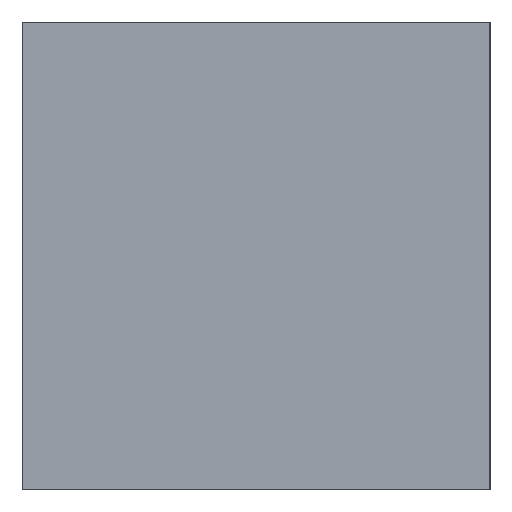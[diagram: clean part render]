
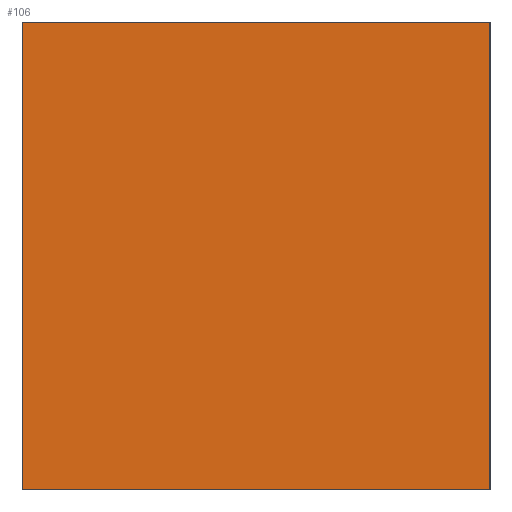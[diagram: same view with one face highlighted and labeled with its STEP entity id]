
A CAD part, left-side view. The second image highlights one B-rep face of the part: STEP entity #106.
In plain terms, the highlighted planar face has unit normal (-1, 0, 0).
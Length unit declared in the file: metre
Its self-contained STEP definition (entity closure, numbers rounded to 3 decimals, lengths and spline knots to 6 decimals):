
#20=ORIENTED_EDGE('',*,*,#37,.T.);
#21=ORIENTED_EDGE('',*,*,#44,.F.);
#22=ORIENTED_EDGE('',*,*,#43,.F.);
#23=ORIENTED_EDGE('',*,*,#45,.T.);
#37=EDGE_CURVE('',#50,#48,#57,.T.);
#43=EDGE_CURVE('',#55,#52,#63,.T.);
#44=EDGE_CURVE('',#52,#48,#64,.T.);
#45=EDGE_CURVE('',#55,#50,#65,.T.);
#48=VERTEX_POINT('',#195);
#50=VERTEX_POINT('',#198);
#52=VERTEX_POINT('',#204);
#55=VERTEX_POINT('',#209);
#57=LINE('',#197,#69);
#63=LINE('',#210,#75);
#64=LINE('',#212,#76);
#65=LINE('',#213,#77);
#69=VECTOR('',#171,1.);
#75=VECTOR('',#179,1.);
#76=VECTOR('',#182,1.);
#77=VECTOR('',#183,1.);
#82=EDGE_LOOP('',(#20,#21,#22,#23));
#88=FACE_BOUND('',#82,.T.);
#94=PLANE('',#162);
#106=ADVANCED_FACE('',(#88),#94,.F.);
#162=AXIS2_PLACEMENT_3D('',#211,#180,#181);
#171=DIRECTION('',(0.,-1.,0.));
#179=DIRECTION('',(0.,-1.,0.));
#180=DIRECTION('',(1.,0.,0.));
#181=DIRECTION('',(0.,1.,0.));
#182=DIRECTION('',(0.,0.,-1.));
#183=DIRECTION('',(0.,0.,-1.));
#195=CARTESIAN_POINT('',(-0.005,0.00285,0.0005));
#197=CARTESIAN_POINT('',(-0.005,0.00335,0.0005));
#198=CARTESIAN_POINT('',(-0.005,0.00335,0.0005));
#204=CARTESIAN_POINT('',(-0.005,0.00285,0.001));
#209=CARTESIAN_POINT('',(-0.005,0.00335,0.001));
#210=CARTESIAN_POINT('',(-0.005,0.00335,0.001));
#211=CARTESIAN_POINT('',(-0.005,0.00335,0.001));
#212=CARTESIAN_POINT('',(-0.005,0.00285,0.001));
#213=CARTESIAN_POINT('',(-0.005,0.00335,0.001));
